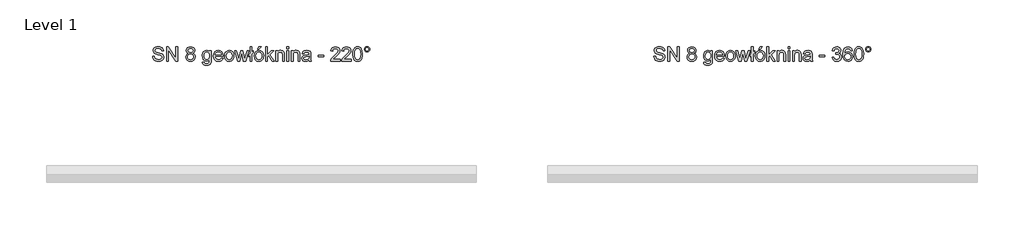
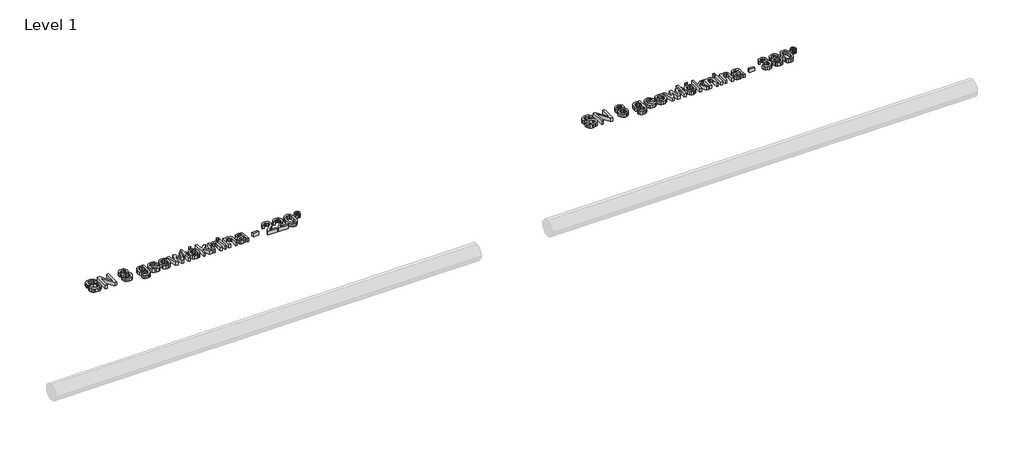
# One storey, part 7 of 10: 2 proxies.
"""IFC4 building model written with IfcOpenShell, lengths in millimetres."""

from ifc_helpers import new_model, si_unit, origin, origin_with_axes, place, context, project, spatial, polyline, outline, extrude, element, save

model = new_model("IFC4")

# Units and contexts
model_context = context("Model", 3, world=origin())
ifc_project = project(units=[si_unit("LENGTHUNIT", "METRE", prefix="MILLI")], contexts=[model_context])

# Site, building, storey
site = spatial("IfcSite", under=ifc_project)
building = spatial("IfcBuilding", under=site)
storey = spatial("IfcBuildingStorey", under=building, Name="Level 1", Elevation=0.0)

# Proxies
placement = place(None, origin())
element("IfcBuildingElementProxy", 1, Name="200mm Arial", ObjectType="200mm Arial", at=placement, inside=storey, context=model_context, shape_type="SweptSolid", body=[
    extrude(outline(polyline([(12447.9311838, 2231.0128426), (12473.0452613, 2231.0128426), (12481.1386652, 2205.8742396), (12489.2688573, 2196.983758), (12500.9061911, 2189.9817374), (12515.1309616, 2185.4383947), (12531.0234637, 2183.9239472), (12557.2657127, 2188.5102094), (12574.21281, 2201.1162991), (12579.7800908, 2217.9652945), (12575.6107616, 2233.6370675), (12569.2586658, 2239.8358791), (12558.541037, 2245.0414093), (12521.9735667, 2254.6308667), (12482.6101932, 2267.0162272), (12470.1083367, 2275.4652503), (12461.248512, 2285.7046325), (12455.9694054, 2297.5136446), (12454.2097032, 2310.6715573), (12456.3863383, 2325.3807057), (12462.9162437, 2339.0965728), (12473.6277411, 2350.7216438), (12488.3491523, 2359.1584042), (12506.0197508, 2364.2903581), (12525.5788102, 2366.0010093), (12546.7688131, 2364.2106503), (12565.3100657, 2358.8395732), (12580.5403803, 2349.9981425), (12591.7975694, 2337.796723), (12598.9222173, 2322.9956041), (12601.7549087, 2306.3550752), (12576.6408312, 2306.3550752), (12572.0300435, 2321.3401351), (12562.4160607, 2332.1558658), (12547.3942125, 2338.7041653), (12526.5598289, 2340.8869318), (12505.2349359, 2338.7286908), (12490.6054952, 2332.2539676), (12482.1442093, 2322.725824), (12479.3237807, 2311.4073212), (12481.3226062, 2301.7565502), (12487.3190827, 2293.9942401), (12501.4948023, 2287.0535332), (12528.3256625, 2279.9656734), (12572.7658075, 2267.3595837), (12587.0825484, 2258.2483729), (12597.0705446, 2247.0034466), (12602.9382624, 2233.7474321), (12604.8941684, 2218.6029566), (12602.6439568, 2203.121256), (12595.8933222, 2188.5592603), (12584.918176, 2176.026747), (12569.9944298, 2166.6334934), (12552.0479198, 2160.7657756), (12532.0044824, 2158.8098696), (12507.3993083, 2160.9190598), (12487.1474045, 2167.2466301), (12471.015779, 2177.8171061), (12458.7714399, 2192.6550132), (12450.9110279, 2210.7302819), (12447.9311838, 2231.0128426)])), origin_with_axes(), (0.0, 0.0, 1.0), 50.0),
    extrude(outline(polyline([(12642.5652847, 2161.9491293), (12642.5652847, 2362.8617496), (12669.4451958, 2362.8617496), (12774.4141918, 2203.6914731), (12774.4141918, 2362.8617496), (12799.5282693, 2362.8617496), (12799.5282693, 2161.9491293), (12772.6483582, 2161.9491293), (12667.6793622, 2321.1684569), (12667.6793622, 2161.9491293), (12642.5652847, 2161.9491293)])), origin_with_axes(), (0.0, 0.0, 1.0), 50.0),
    extrude(outline(polyline([(12949.133614, 2272.6080335), (12935.6875271, 2279.2299094), (12926.2513539, 2288.2062301), (12920.6779417, 2299.3530545), (12918.8201376, 2312.4864418), (12922.8668395, 2332.1190776), (12935.0069454, 2348.3426736), (12953.8792917, 2359.2319806), (12978.1227152, 2362.8617496), (13002.5132915, 2359.1461415), (13021.6308925, 2347.999317), (13033.9917276, 2331.5182037), (13038.1120059, 2311.7997287), (13036.2787273, 2299.0894058), (13030.7788915, 2288.1326537), (13021.5511848, 2279.2115153), (13008.5342935, 2272.6080335), (13023.9914687, 2264.6433883), (13035.2425263, 2252.914084), (13042.1035255, 2237.9842064), (13044.3905253, 2220.4178411), (13039.853314, 2196.4074096), (13026.2416802, 2176.5663073), (13005.2233555, 2163.2489791), (12978.4660717, 2158.8098696), (12951.708788, 2163.2673732), (12930.6904633, 2176.6398837), (12917.0788295, 2196.6710583), (12912.5416182, 2221.1045542), (12914.9205884, 2239.3515011), (12922.0574992, 2254.3610865), (12933.5844683, 2265.6182756), (12949.133614, 2272.6080335)]), holes=[polyline([(12943.9342151, 2311.7506778), (12946.1599012, 2300.7877943), (12952.8369594, 2292.0322028), (12963.769186, 2286.2932437), (12978.7603773, 2284.3802573), (12993.4020808, 2286.280981), (13004.1687605, 2291.9831519), (13010.7906364, 2300.4444378), (13012.9979284, 2310.6225063), (13010.71706, 2321.186851), (13003.8744549, 2329.9240483), (12992.9606224, 2335.7917662), (12978.4660717, 2337.7476721), (12963.8795506, 2335.8346857), (12952.9841122, 2330.0957266), (12946.1966894, 2321.6834916), (12943.9342151, 2311.7506778)]), polyline([(12937.6556958, 2221.987471), (12941.8495505, 2203.0783364), (12947.6559547, 2194.9665384), (12956.6874576, 2188.9271423), (12978.6622755, 2183.9239472), (12995.7565255, 2186.5543035), (13008.5833444, 2194.4453722), (13016.6031719, 2206.3954057), (13019.2764477, 2221.202656), (13016.5173328, 2236.2612924), (13008.2399879, 2248.4749746), (12995.1188634, 2256.5683785), (12977.8284096, 2259.2661798), (12960.9732829, 2256.6051667), (12948.2752227, 2248.6221274), (12940.3105775, 2236.6414371), (12937.6556958, 2221.987471)])]), origin_with_axes(), (0.0, 0.0, 1.0), 50.0),
    extrude(outline(polyline([(13144.8468354, 2149.3920906), (13169.960913, 2146.2528309), (13172.7322907, 2138.4046817), (13178.1033678, 2133.0090791), (13188.6615811, 2128.8152243), (13202.4816813, 2127.4172727), (13217.2214866, 2128.9991653), (13228.1843701, 2133.744843), (13235.7872646, 2141.3477376), (13240.4471032, 2151.5012807), (13242.1638859, 2180.7846875), (13224.4810247, 2166.6580189), (13202.9231397, 2161.9491293), (13177.0303786, 2167.4305711), (13157.7227053, 2183.8748963), (13145.7113581, 2207.9834297), (13141.7075757, 2236.4574961), (13143.5040662, 2256.7339254), (13148.8935374, 2275.3794112), (13157.6859171, 2291.1799429), (13169.6911328, 2302.9215099), (13184.4983831, 2310.2055734), (13201.6968664, 2312.6335946), (13224.1008799, 2307.1398901), (13242.1638859, 2290.6587767), (13242.1638859, 2309.4943349), (13267.2779634, 2309.4943349), (13267.2779634, 2182.1090627), (13265.5611808, 2152.6968972), (13260.4108329, 2133.3279101), (13251.5387454, 2120.4826971), (13238.6567442, 2110.6418537), (13222.0468721, 2104.3878598), (13201.991172, 2102.3031952), (13178.624534, 2105.2401198), (13160.2243028, 2114.0508936), (13148.4214222, 2128.760042), (13144.8468354, 2149.3920906)]), holes=[polyline([(13166.8216533, 2238.1742787), (13169.5010605, 2215.1387345), (13177.5392821, 2199.3014146), (13189.6242056, 2190.1227588), (13204.4437187, 2187.0632069), (13219.1528671, 2190.1043647), (13231.2991043, 2199.2278382), (13239.4476905, 2214.862823), (13242.1638859, 2237.4385148), (13239.3679827, 2259.2109975), (13230.9802732, 2274.8889019), (13218.6562264, 2284.3618632), (13204.0513112, 2287.519517), (13189.7100447, 2284.4109142), (13177.6864349, 2275.0851056), (13169.5378487, 2259.6401932), (13166.8216533, 2238.1742787)])]), origin_with_axes(), (0.0, 0.0, 1.0), 50.0),
    extrude(outline(polyline([(13408.250344, 2205.898765), (13432.8739122, 2202.7595053), (13424.0018247, 2184.20599), (13409.8444993, 2170.3368388), (13390.7207669, 2161.6916119), (13366.9494587, 2158.8098696), (13337.4821108, 2163.782408), (13314.8083172, 2178.7000229), (13300.3505548, 2202.5939584), (13295.5313007, 2234.4954588), (13300.3996057, 2267.4699483), (13315.0045209, 2292.1303047), (13337.3717462, 2307.5077721), (13365.5269816, 2312.6335946), (13392.8054315, 2307.5200348), (13414.6024398, 2292.1793556), (13428.8946553, 2267.5680502), (13433.6587271, 2234.6426116), (13433.5115743, 2227.8735829), (13320.6453782, 2227.8735829), (13324.9925171, 2209.0748129), (13335.0908779, 2195.2547126), (13349.6651362, 2186.7566385), (13367.439968, 2183.9239472), (13392.0635362, 2189.172397), (13401.2115351, 2195.9782139), (13408.250344, 2205.898765)]), holes=[polyline([(13320.6453782, 2252.9876604), (13408.5446496, 2252.9876604), (13405.1478725, 2266.2559377), (13398.4892084, 2275.7472932), (13383.847505, 2284.5764611), (13365.4288797, 2287.519517), (13348.5001766, 2285.1712036), (13334.5022667, 2278.1262634), (13324.7717879, 2267.1449859), (13320.6453782, 2252.9876604)])]), origin_with_axes(), (0.0, 0.0, 1.0), 50.0),
    extrude(outline(polyline([(13452.4942853, 2235.7217321), (13457.9266761, 2271.295921), (13464.7171646, 2285.119087), (13474.2238484, 2296.299634), (13494.3592563, 2308.5501044), (13518.4677897, 2312.6335946), (13544.8510602, 2307.6610563), (13565.9245671, 2292.7434414), (13579.738536, 2269.0579722), (13584.3431923, 2237.7818713), (13582.3075786, 2212.4102763), (13576.2007375, 2193.0964716), (13566.2004786, 2178.6325778), (13552.4846116, 2167.8107158), (13536.1935705, 2161.0600812), (13518.4677897, 2158.8098696), (13491.7656883, 2163.7640139), (13470.7167068, 2178.6264465), (13457.0498906, 2202.8085563), (13452.4942853, 2235.7217321)]), holes=[polyline([(13477.6083628, 2235.770783), (13480.5146306, 2213.0418071), (13489.2334339, 2196.848868), (13502.3545583, 2187.1551774), (13518.4677897, 2183.9239472), (13534.5074447, 2187.1735715), (13547.6040438, 2196.9224443), (13556.322847, 2213.3299813), (13559.2291148, 2236.555598), (13556.3044529, 2258.6223863), (13547.5304674, 2274.5945963), (13534.4154742, 2284.2882868), (13518.4677897, 2287.519517), (13502.3545583, 2284.3005496), (13489.2334339, 2274.6436472), (13480.5146306, 2258.4874962), (13477.6083628, 2235.770783)])]), origin_with_axes(), (0.0, 0.0, 1.0), 50.0),
    extrude(outline(polyline([(13637.072945, 2161.9491293), (13592.1913416, 2309.4943349), (13618.2864378, 2309.4943349), (13643.7438718, 2223.409948), (13651.3467664, 2192.6550132), (13657.5762348, 2222.2817766), (13677.83427, 2309.4943349), (13707.755339, 2309.4943349), (13727.9152723, 2222.5270312), (13733.4580277, 2195.696171), (13741.4042788, 2223.9985592), (13766.9107638, 2309.4943349), (13793.1039619, 2309.4943349), (13747.8790019, 2161.9491293), (13717.5164746, 2161.9491293), (13698.239458, 2248.4749746), (13692.6476517, 2275.4529876), (13667.7788288, 2161.9491293), (13637.072945, 2161.9491293)])), origin_with_axes(), (0.0, 0.0, 1.0), 50.0),
    extrude(outline(polyline([(13810.3698902, 2241.3625894), (13791.534332, 2226.303953), (13791.534332, 2254.5572903), (13810.3698902, 2269.6159266), (13810.3698902, 2362.8617496), (13835.4839677, 2362.8617496), (13835.4839677, 2289.726809), (13854.3195259, 2304.7854453), (13854.3195259, 2276.5321081), (13835.4839677, 2261.4734718), (13835.4839677, 2161.9491293), (13810.3698902, 2161.9491293), (13810.3698902, 2241.3625894)])), origin_with_axes(), (0.0, 0.0, 1.0), 50.0),
    extrude(outline(polyline([(13913.96546, 2325.1906333), (13932.8010182, 2362.8617496), (13964.1936151, 2362.8617496), (13932.8010182, 2325.1906333), (13913.96546, 2325.1906333)])), origin_with_axes(), (0.0, 0.0, 1.0), 50.0),
    extrude(outline(polyline([(13866.8765646, 2235.7217321), (13872.3089554, 2271.295921), (13879.0994439, 2285.119087), (13888.6061278, 2296.299634), (13908.7415357, 2308.5501044), (13932.8500691, 2312.6335946), (13959.2333395, 2307.6610563), (13980.3068465, 2292.7434414), (13994.1208154, 2269.0579722), (13998.7254717, 2237.7818713), (13996.689858, 2212.4102763), (13990.5830169, 2193.0964716), (13980.582758, 2178.6325778), (13966.8668909, 2167.8107158), (13950.5758499, 2161.0600812), (13932.8500691, 2158.8098696), (13906.1479676, 2163.7640139), (13885.0989861, 2178.6264465), (13871.43217, 2202.8085563), (13866.8765646, 2235.7217321)]), holes=[polyline([(13891.9906422, 2235.770783), (13894.8969099, 2213.0418071), (13903.6157132, 2196.848868), (13916.7368377, 2187.1551774), (13932.8500691, 2183.9239472), (13948.8897241, 2187.1735715), (13961.9863231, 2196.9224443), (13970.7051264, 2213.3299813), (13973.6113942, 2236.555598), (13970.6867323, 2258.6223863), (13961.9127467, 2274.5945963), (13948.7977536, 2284.2882868), (13932.8500691, 2287.519517), (13916.7368377, 2284.3005496), (13903.6157132, 2274.6436472), (13894.8969099, 2258.4874962), (13891.9906422, 2235.770783)])]), origin_with_axes(), (0.0, 0.0, 1.0), 50.0),
    extrude(outline(polyline([(14026.9788089, 2161.9491293), (14026.9788089, 2362.8617496), (14052.0928865, 2362.8617496), (14052.0928865, 2254.9006468), (14108.4033572, 2309.4943349), (14143.1314175, 2309.4943349), (14086.1342338, 2254.2139337), (14146.2706772, 2161.9491293), (14116.9382195, 2161.9491293), (14068.1325415, 2236.7518017), (14052.0928865, 2221.202656), (14052.0928865, 2161.9491293), (14026.9788089, 2161.9491293)])), origin_with_axes(), (0.0, 0.0, 1.0), 50.0),
    extrude(outline(polyline([(14168.2454951, 2161.9491293), (14168.2454951, 2309.4943349), (14193.3595726, 2309.4943349), (14193.3595726, 2288.8929431), (14202.0845073, 2299.2794781), (14212.5630128, 2306.6984317), (14224.7950891, 2311.1498039), (14238.7807363, 2312.6335946), (14262.4968622, 2307.8511286), (14278.68367, 2295.2940899), (14286.2129882, 2276.8264137), (14287.5373634, 2252.546202), (14287.5373634, 2161.9491293), (14262.4232858, 2161.9491293), (14262.4232858, 2249.1616877), (14259.5292808, 2271.3817602), (14249.3021614, 2283.1294586), (14232.0607585, 2287.519517), (14217.3516101, 2285.0547077), (14204.8129654, 2277.6602796), (14196.2229208, 2263.3741954), (14193.3595726, 2240.2344179), (14193.3595726, 2161.9491293), (14168.2454951, 2161.9491293)])), origin_with_axes(), (0.0, 0.0, 1.0), 50.0),
    extrude(outline(polyline([(14322.06922, 2337.7476721), (14322.06922, 2362.8617496), (14347.1832975, 2362.8617496), (14347.1832975, 2337.7476721), (14322.06922, 2337.7476721)])), origin_with_axes(), (0.0, 0.0, 1.0), 50.0),
    extrude(outline(polyline([(14322.06922, 2161.9491293), (14322.06922, 2309.4943349), (14347.1832975, 2309.4943349), (14347.1832975, 2161.9491293), (14322.06922, 2161.9491293)])), origin_with_axes(), (0.0, 0.0, 1.0), 50.0),
    extrude(outline(polyline([(14384.8544138, 2161.9491293), (14384.8544138, 2309.4943349), (14409.9684914, 2309.4943349), (14409.9684914, 2288.8929431), (14418.693426, 2299.2794781), (14429.1719315, 2306.6984317), (14441.4040079, 2311.1498039), (14455.3896551, 2312.6335946), (14479.105781, 2307.8511286), (14495.2925888, 2295.2940899), (14502.821907, 2276.8264137), (14504.1462821, 2252.546202), (14504.1462821, 2161.9491293), (14479.0322046, 2161.9491293), (14479.0322046, 2249.1616877), (14476.1381996, 2271.3817602), (14465.9110801, 2283.1294586), (14448.6696773, 2287.519517), (14433.9605288, 2285.0547077), (14421.4218842, 2277.6602796), (14412.8318396, 2263.3741954), (14409.9684914, 2240.2344179), (14409.9684914, 2161.9491293), (14384.8544138, 2161.9491293)])), origin_with_axes(), (0.0, 0.0, 1.0), 50.0),
    extrude(outline(polyline([(14632.8559295, 2180.7846875), (14608.5021414, 2163.7640139), (14581.5977049, 2158.8098696), (14560.610037, 2161.7897138), (14545.1283364, 2170.7292463), (14535.5817986, 2184.3040919), (14532.3996194, 2201.1898755), (14537.2066108, 2221.0555032), (14549.8372259, 2235.4764774), (14567.4219853, 2243.7170341), (14589.1515485, 2247.493956), (14632.7087767, 2256.1269201), (14632.8559295, 2261.7187264), (14631.1268841, 2272.9268646), (14625.939748, 2280.259979), (14614.3392024, 2285.7046325), (14598.1769201, 2287.519517), (14583.2163856, 2286.3116378), (14572.768537, 2282.6880002), (14565.643889, 2275.9864165), (14560.6529566, 2265.5446992), (14535.5388791, 2268.6839589), (14546.4036607, 2293.2094252), (14555.6620242, 2301.4622446), (14568.2803766, 2307.5813485), (14601.4142817, 2312.6335946), (14631.8503854, 2308.1699597), (14649.0427373, 2296.9618216), (14656.7437337, 2279.9166225), (14657.9700071, 2257.9418046), (14657.9700071, 2226.6963605), (14659.2453313, 2183.0655559), (14664.2485264, 2161.9491293), (14639.1344489, 2161.9491293), (14632.8559295, 2180.7846875)]), holes=[polyline([(14632.8559295, 2231.0128426), (14592.3398591, 2223.3118461), (14570.7329233, 2219.2406187), (14560.9472622, 2212.6187428), (14557.5136969, 2202.9557091), (14559.3837637, 2195.4877046), (14564.9939641, 2189.3686007), (14574.2216709, 2185.2851106), (14586.9442565, 2183.9239472), (14600.433263, 2185.426132), (14612.3526397, 2189.9326864), (14628.7356512, 2204.476288), (14632.7087767, 2223.9004573), (14632.8559295, 2231.0128426)])]), origin_with_axes(), (0.0, 0.0, 1.0), 50.0),
    extrude(outline(polyline([(14758.4263172, 2221.5950635), (14758.4263172, 2246.709141), (14836.9078095, 2246.709141), (14836.9078095, 2221.5950635), (14758.4263172, 2221.5950635)])), origin_with_axes(), (0.0, 0.0, 1.0), 50.0),
    extrude(outline(polyline([(15066.073767, 2187.0632069), (15066.073767, 2161.9491293), (14934.22486, 2161.9491293), (14936.9226613, 2179.2641086), (14952.1775013, 2205.9232905), (14983.6191492, 2235.0350191), (15026.9801737, 2276.8754646), (15035.1103658, 2291.2964388), (15037.8204298, 2305.3250056), (15035.2636499, 2317.9004385), (15027.5933103, 2328.3544185), (15015.8026924, 2335.3993587), (15000.8850775, 2337.7476721), (14985.2194359, 2335.454541), (14973.0486732, 2328.5751477), (14965.1943926, 2317.6490524), (14962.4781972, 2303.2158155), (14937.3641197, 2306.3550752), (14943.4525667, 2330.6475496), (14956.6166107, 2348.3917245), (14976.1695388, 2359.2442434), (15001.4246378, 2362.8617496), (15026.8636777, 2358.8395732), (15046.3798176, 2346.7730437), (15058.7958349, 2328.746826), (15062.9345074, 2306.8455845), (15058.4708725, 2283.0313567), (15043.6329653, 2258.4077885), (15007.6541062, 2223.9985592), (14978.7631069, 2199.8409748), (14967.4323414, 2187.0632069), (15066.073767, 2187.0632069)])), origin_with_axes(), (0.0, 0.0, 1.0), 50.0),
    extrude(outline(polyline([(15219.897492, 2187.0632069), (15219.897492, 2161.9491293), (15088.0485849, 2161.9491293), (15090.7463862, 2179.2641086), (15106.0012263, 2205.9232905), (15137.4428741, 2235.0350191), (15180.8038986, 2276.8754646), (15188.9340907, 2291.2964388), (15191.6441547, 2305.3250056), (15189.0873749, 2317.9004385), (15181.4170353, 2328.3544185), (15169.6264173, 2335.3993587), (15154.7088024, 2337.7476721), (15139.0431608, 2335.454541), (15126.8723981, 2328.5751477), (15119.0181175, 2317.6490524), (15116.3019221, 2303.2158155), (15091.1878446, 2306.3550752), (15097.2762916, 2330.6475496), (15110.4403357, 2348.3917245), (15129.9932637, 2359.2442434), (15155.2483627, 2362.8617496), (15180.6874026, 2358.8395732), (15200.2035425, 2346.7730437), (15212.6195598, 2328.746826), (15216.7582323, 2306.8455845), (15212.2945974, 2283.0313567), (15197.4566903, 2258.4077885), (15161.4778311, 2223.9985592), (15132.5868318, 2199.8409748), (15121.2560663, 2187.0632069), (15219.897492, 2187.0632069)])), origin_with_axes(), (0.0, 0.0, 1.0), 50.0),
    extrude(outline(polyline([(15245.0115695, 2260.7867587), (15246.8571108, 2292.9457765), (15252.3937349, 2318.5932829), (15261.5662593, 2338.1216855), (15274.3195018, 2351.9233917), (15290.7454329, 2360.1271601), (15310.936023, 2362.8617496), (15326.4115923, 2361.2430689), (15340.2684808, 2356.3870265), (15351.8567636, 2348.483695), (15360.526516, 2337.7231466), (15372.2987398, 2307.9982814), (15376.8604766, 2260.7867587), (15375.0333293, 2228.811682), (15369.5518876, 2203.2254892), (15360.4345455, 2183.6786925), (15347.6996971, 2169.821804), (15331.2369778, 2161.5628532), (15310.936023, 2158.8098696), (15284.8409268, 2163.5923356), (15265.02435, 2177.9397334), (15256.2687586, 2193.0688805), (15250.0147646, 2211.919767), (15245.0115695, 2260.7867587)]), holes=[polyline([(15270.125647, 2260.8358096), (15273.068703, 2221.3314147), (15281.8978709, 2198.4675487), (15295.0435208, 2187.5598476), (15310.936023, 2183.9239472), (15326.8285252, 2187.5721103), (15339.9741752, 2198.5165997), (15348.8033431, 2221.3927284), (15351.746399, 2260.8358096), (15348.9014449, 2299.4511564), (15340.3665826, 2322.492832), (15327.2454582, 2333.9339621), (15310.6417174, 2337.7476721), (15294.9208935, 2334.3876832), (15282.2902783, 2324.3077165), (15273.1668049, 2299.8313011), (15270.125647, 2260.8358096)])]), origin_with_axes(), (0.0, 0.0, 1.0), 50.0),
    extrude(outline(polyline([(15405.1138138, 2328.378944), (15407.8790601, 2342.8612318), (15416.1747991, 2355.0136004), (15428.3455618, 2363.2541571), (15442.7358792, 2366.0010093), (15457.2917434, 2363.2541571), (15469.4686375, 2355.0136004), (15477.7091942, 2342.8612318), (15480.4560464, 2328.378944), (15477.6908001, 2313.9150502), (15469.3950611, 2301.719762), (15457.199773, 2293.4240231), (15442.7358792, 2290.6587767), (15428.3455618, 2293.405629), (15416.1747991, 2301.6461856), (15407.8790601, 2313.8230797), (15405.1138138, 2328.378944)]), holes=[polyline([(15420.8101123, 2328.329893), (15422.4226617, 2319.8808699), (15427.2603099, 2312.7807474), (15434.3788265, 2307.9614932), (15442.833981, 2306.3550752), (15451.2155592, 2307.9614932), (15458.3095503, 2312.7807474), (15463.1471985, 2319.8808699), (15464.759748, 2328.329893), (15463.1471985, 2336.7789162), (15458.3095503, 2343.8790387), (15451.2155592, 2348.6982928), (15442.833981, 2350.3047109), (15434.3788265, 2348.6982928), (15427.2603099, 2343.8790387), (15422.4226617, 2336.7789162), (15420.8101123, 2328.329893)])]), origin_with_axes(), (0.0, 0.0, 1.0), 50.0),
])
element("IfcBuildingElementProxy", 2, Name="200mm Arial", ObjectType="200mm Arial", at=placement, inside=storey, context=model_context, shape_type="SweptSolid", body=[
    extrude(outline(polyline([(19447.9311838, 2231.0128426), (19473.0452613, 2231.0128426), (19481.1386652, 2205.8742396), (19489.2688573, 2196.983758), (19500.9061911, 2189.9817374), (19515.1309616, 2185.4383947), (19531.0234637, 2183.9239472), (19557.2657127, 2188.5102094), (19574.21281, 2201.1162991), (19579.7800908, 2217.9652945), (19575.6107616, 2233.6370675), (19569.2586658, 2239.8358791), (19558.541037, 2245.0414093), (19521.9735667, 2254.6308667), (19482.6101932, 2267.0162272), (19470.1083367, 2275.4652503), (19461.248512, 2285.7046325), (19455.9694054, 2297.5136446), (19454.2097032, 2310.6715573), (19456.3863383, 2325.3807057), (19462.9162437, 2339.0965728), (19473.6277411, 2350.7216438), (19488.3491523, 2359.1584042), (19506.0197508, 2364.2903581), (19525.5788102, 2366.0010093), (19546.7688131, 2364.2106503), (19565.3100657, 2358.8395732), (19580.5403803, 2349.9981425), (19591.7975694, 2337.796723), (19598.9222173, 2322.9956041), (19601.7549087, 2306.3550752), (19576.6408312, 2306.3550752), (19572.0300435, 2321.3401351), (19562.4160607, 2332.1558658), (19547.3942125, 2338.7041653), (19526.5598289, 2340.8869318), (19505.2349359, 2338.7286908), (19490.6054952, 2332.2539676), (19482.1442093, 2322.725824), (19479.3237807, 2311.4073212), (19481.3226062, 2301.7565502), (19487.3190827, 2293.9942401), (19501.4948023, 2287.0535332), (19528.3256625, 2279.9656734), (19572.7658075, 2267.3595837), (19587.0825484, 2258.2483729), (19597.0705446, 2247.0034466), (19602.9382624, 2233.7474321), (19604.8941684, 2218.6029566), (19602.6439568, 2203.121256), (19595.8933222, 2188.5592603), (19584.918176, 2176.026747), (19569.9944298, 2166.6334934), (19552.0479198, 2160.7657756), (19532.0044824, 2158.8098696), (19507.3993083, 2160.9190598), (19487.1474045, 2167.2466301), (19471.015779, 2177.8171061), (19458.7714399, 2192.6550132), (19450.9110279, 2210.7302819), (19447.9311838, 2231.0128426)])), origin_with_axes(), (0.0, 0.0, 1.0), 50.0),
    extrude(outline(polyline([(19642.5652847, 2161.9491293), (19642.5652847, 2362.8617496), (19669.4451958, 2362.8617496), (19774.4141918, 2203.6914731), (19774.4141918, 2362.8617496), (19799.5282693, 2362.8617496), (19799.5282693, 2161.9491293), (19772.6483582, 2161.9491293), (19667.6793622, 2321.1684569), (19667.6793622, 2161.9491293), (19642.5652847, 2161.9491293)])), origin_with_axes(), (0.0, 0.0, 1.0), 50.0),
    extrude(outline(polyline([(19949.133614, 2272.6080335), (19935.6875271, 2279.2299094), (19926.2513539, 2288.2062301), (19920.6779417, 2299.3530545), (19918.8201376, 2312.4864418), (19922.8668395, 2332.1190776), (19935.0069454, 2348.3426736), (19953.8792917, 2359.2319806), (19978.1227152, 2362.8617496), (20002.5132915, 2359.1461415), (20021.6308925, 2347.999317), (20033.9917276, 2331.5182037), (20038.1120059, 2311.7997287), (20036.2787273, 2299.0894058), (20030.7788915, 2288.1326537), (20021.5511848, 2279.2115153), (20008.5342935, 2272.6080335), (20023.9914687, 2264.6433883), (20035.2425263, 2252.914084), (20042.1035255, 2237.9842064), (20044.3905253, 2220.4178411), (20039.853314, 2196.4074096), (20026.2416802, 2176.5663073), (20005.2233555, 2163.2489791), (19978.4660717, 2158.8098696), (19951.708788, 2163.2673732), (19930.6904633, 2176.6398837), (19917.0788295, 2196.6710583), (19912.5416182, 2221.1045542), (19914.9205884, 2239.3515011), (19922.0574992, 2254.3610865), (19933.5844683, 2265.6182756), (19949.133614, 2272.6080335)]), holes=[polyline([(19943.9342151, 2311.7506778), (19946.1599012, 2300.7877943), (19952.8369594, 2292.0322028), (19963.769186, 2286.2932437), (19978.7603773, 2284.3802573), (19993.4020808, 2286.280981), (20004.1687605, 2291.9831519), (20010.7906364, 2300.4444378), (20012.9979284, 2310.6225063), (20010.71706, 2321.186851), (20003.8744549, 2329.9240483), (19992.9606224, 2335.7917662), (19978.4660717, 2337.7476721), (19963.8795506, 2335.8346857), (19952.9841122, 2330.0957266), (19946.1966894, 2321.6834916), (19943.9342151, 2311.7506778)]), polyline([(19937.6556958, 2221.987471), (19941.8495505, 2203.0783364), (19947.6559547, 2194.9665384), (19956.6874576, 2188.9271423), (19978.6622755, 2183.9239472), (19995.7565255, 2186.5543035), (20008.5833444, 2194.4453722), (20016.6031719, 2206.3954057), (20019.2764477, 2221.202656), (20016.5173328, 2236.2612924), (20008.2399879, 2248.4749746), (19995.1188634, 2256.5683785), (19977.8284096, 2259.2661798), (19960.9732829, 2256.6051667), (19948.2752227, 2248.6221274), (19940.3105775, 2236.6414371), (19937.6556958, 2221.987471)])]), origin_with_axes(), (0.0, 0.0, 1.0), 50.0),
    extrude(outline(polyline([(20144.8468354, 2149.3920906), (20169.960913, 2146.2528309), (20172.7322907, 2138.4046817), (20178.1033678, 2133.0090791), (20188.6615811, 2128.8152243), (20202.4816813, 2127.4172727), (20217.2214866, 2128.9991653), (20228.1843701, 2133.744843), (20235.7872646, 2141.3477376), (20240.4471032, 2151.5012807), (20242.1638859, 2180.7846875), (20224.4810247, 2166.6580189), (20202.9231397, 2161.9491293), (20177.0303786, 2167.4305711), (20157.7227053, 2183.8748963), (20145.7113581, 2207.9834297), (20141.7075757, 2236.4574961), (20143.5040662, 2256.7339254), (20148.8935374, 2275.3794112), (20157.6859171, 2291.1799429), (20169.6911328, 2302.9215099), (20184.4983831, 2310.2055734), (20201.6968664, 2312.6335946), (20224.1008799, 2307.1398901), (20242.1638859, 2290.6587767), (20242.1638859, 2309.4943349), (20267.2779634, 2309.4943349), (20267.2779634, 2182.1090627), (20265.5611808, 2152.6968972), (20260.4108329, 2133.3279101), (20251.5387454, 2120.4826971), (20238.6567442, 2110.6418537), (20222.0468721, 2104.3878598), (20201.991172, 2102.3031952), (20178.624534, 2105.2401198), (20160.2243028, 2114.0508936), (20148.4214222, 2128.760042), (20144.8468354, 2149.3920906)]), holes=[polyline([(20166.8216533, 2238.1742787), (20169.5010605, 2215.1387345), (20177.5392821, 2199.3014146), (20189.6242056, 2190.1227588), (20204.4437187, 2187.0632069), (20219.1528671, 2190.1043647), (20231.2991043, 2199.2278382), (20239.4476905, 2214.862823), (20242.1638859, 2237.4385148), (20239.3679827, 2259.2109975), (20230.9802732, 2274.8889019), (20218.6562264, 2284.3618632), (20204.0513112, 2287.519517), (20189.7100447, 2284.4109142), (20177.6864349, 2275.0851056), (20169.5378487, 2259.6401932), (20166.8216533, 2238.1742787)])]), origin_with_axes(), (0.0, 0.0, 1.0), 50.0),
    extrude(outline(polyline([(20408.250344, 2205.898765), (20432.8739122, 2202.7595053), (20424.0018247, 2184.20599), (20409.8444993, 2170.3368388), (20390.7207669, 2161.6916119), (20366.9494587, 2158.8098696), (20337.4821108, 2163.782408), (20314.8083172, 2178.7000229), (20300.3505548, 2202.5939584), (20295.5313007, 2234.4954588), (20300.3996057, 2267.4699483), (20315.0045209, 2292.1303047), (20337.3717462, 2307.5077721), (20365.5269816, 2312.6335946), (20392.8054315, 2307.5200348), (20414.6024398, 2292.1793556), (20428.8946553, 2267.5680502), (20433.6587271, 2234.6426116), (20433.5115743, 2227.8735829), (20320.6453782, 2227.8735829), (20324.9925171, 2209.0748129), (20335.0908779, 2195.2547126), (20349.6651362, 2186.7566385), (20367.439968, 2183.9239472), (20392.0635362, 2189.172397), (20401.2115351, 2195.9782139), (20408.250344, 2205.898765)]), holes=[polyline([(20320.6453782, 2252.9876604), (20408.5446496, 2252.9876604), (20405.1478725, 2266.2559377), (20398.4892084, 2275.7472932), (20383.847505, 2284.5764611), (20365.4288797, 2287.519517), (20348.5001766, 2285.1712036), (20334.5022667, 2278.1262634), (20324.7717879, 2267.1449859), (20320.6453782, 2252.9876604)])]), origin_with_axes(), (0.0, 0.0, 1.0), 50.0),
    extrude(outline(polyline([(20452.4942853, 2235.7217321), (20457.9266761, 2271.295921), (20464.7171646, 2285.119087), (20474.2238484, 2296.299634), (20494.3592563, 2308.5501044), (20518.4677897, 2312.6335946), (20544.8510602, 2307.6610563), (20565.9245671, 2292.7434414), (20579.738536, 2269.0579722), (20584.3431923, 2237.7818713), (20582.3075786, 2212.4102763), (20576.2007375, 2193.0964716), (20566.2004786, 2178.6325778), (20552.4846116, 2167.8107158), (20536.1935705, 2161.0600812), (20518.4677897, 2158.8098696), (20491.7656883, 2163.7640139), (20470.7167068, 2178.6264465), (20457.0498906, 2202.8085563), (20452.4942853, 2235.7217321)]), holes=[polyline([(20477.6083628, 2235.770783), (20480.5146306, 2213.0418071), (20489.2334339, 2196.848868), (20502.3545583, 2187.1551774), (20518.4677897, 2183.9239472), (20534.5074447, 2187.1735715), (20547.6040438, 2196.9224443), (20556.322847, 2213.3299813), (20559.2291148, 2236.555598), (20556.3044529, 2258.6223863), (20547.5304674, 2274.5945963), (20534.4154742, 2284.2882868), (20518.4677897, 2287.519517), (20502.3545583, 2284.3005496), (20489.2334339, 2274.6436472), (20480.5146306, 2258.4874962), (20477.6083628, 2235.770783)])]), origin_with_axes(), (0.0, 0.0, 1.0), 50.0),
    extrude(outline(polyline([(20637.072945, 2161.9491293), (20592.1913416, 2309.4943349), (20618.2864378, 2309.4943349), (20643.7438718, 2223.409948), (20651.3467664, 2192.6550132), (20657.5762348, 2222.2817766), (20677.83427, 2309.4943349), (20707.755339, 2309.4943349), (20727.9152723, 2222.5270312), (20733.4580277, 2195.696171), (20741.4042788, 2223.9985592), (20766.9107638, 2309.4943349), (20793.1039619, 2309.4943349), (20747.8790019, 2161.9491293), (20717.5164746, 2161.9491293), (20698.239458, 2248.4749746), (20692.6476517, 2275.4529876), (20667.7788288, 2161.9491293), (20637.072945, 2161.9491293)])), origin_with_axes(), (0.0, 0.0, 1.0), 50.0),
    extrude(outline(polyline([(20810.3698902, 2241.3625894), (20791.534332, 2226.303953), (20791.534332, 2254.5572903), (20810.3698902, 2269.6159266), (20810.3698902, 2362.8617496), (20835.4839677, 2362.8617496), (20835.4839677, 2289.726809), (20854.3195259, 2304.7854453), (20854.3195259, 2276.5321081), (20835.4839677, 2261.4734718), (20835.4839677, 2161.9491293), (20810.3698902, 2161.9491293), (20810.3698902, 2241.3625894)])), origin_with_axes(), (0.0, 0.0, 1.0), 50.0),
    extrude(outline(polyline([(20913.96546, 2325.1906333), (20932.8010182, 2362.8617496), (20964.1936151, 2362.8617496), (20932.8010182, 2325.1906333), (20913.96546, 2325.1906333)])), origin_with_axes(), (0.0, 0.0, 1.0), 50.0),
    extrude(outline(polyline([(20866.8765646, 2235.7217321), (20872.3089554, 2271.295921), (20879.0994439, 2285.119087), (20888.6061278, 2296.299634), (20908.7415357, 2308.5501044), (20932.8500691, 2312.6335946), (20959.2333395, 2307.6610563), (20980.3068465, 2292.7434414), (20994.1208154, 2269.0579722), (20998.7254717, 2237.7818713), (20996.689858, 2212.4102763), (20990.5830169, 2193.0964716), (20980.582758, 2178.6325778), (20966.8668909, 2167.8107158), (20950.5758499, 2161.0600812), (20932.8500691, 2158.8098696), (20906.1479676, 2163.7640139), (20885.0989861, 2178.6264465), (20871.43217, 2202.8085563), (20866.8765646, 2235.7217321)]), holes=[polyline([(20891.9906422, 2235.770783), (20894.8969099, 2213.0418071), (20903.6157132, 2196.848868), (20916.7368377, 2187.1551774), (20932.8500691, 2183.9239472), (20948.8897241, 2187.1735715), (20961.9863231, 2196.9224443), (20970.7051264, 2213.3299813), (20973.6113942, 2236.555598), (20970.6867323, 2258.6223863), (20961.9127467, 2274.5945963), (20948.7977536, 2284.2882868), (20932.8500691, 2287.519517), (20916.7368377, 2284.3005496), (20903.6157132, 2274.6436472), (20894.8969099, 2258.4874962), (20891.9906422, 2235.770783)])]), origin_with_axes(), (0.0, 0.0, 1.0), 50.0),
    extrude(outline(polyline([(21026.9788089, 2161.9491293), (21026.9788089, 2362.8617496), (21052.0928865, 2362.8617496), (21052.0928865, 2254.9006468), (21108.4033572, 2309.4943349), (21143.1314175, 2309.4943349), (21086.1342338, 2254.2139337), (21146.2706772, 2161.9491293), (21116.9382195, 2161.9491293), (21068.1325415, 2236.7518017), (21052.0928865, 2221.202656), (21052.0928865, 2161.9491293), (21026.9788089, 2161.9491293)])), origin_with_axes(), (0.0, 0.0, 1.0), 50.0),
    extrude(outline(polyline([(21168.2454951, 2161.9491293), (21168.2454951, 2309.4943349), (21193.3595726, 2309.4943349), (21193.3595726, 2288.8929431), (21202.0845073, 2299.2794781), (21212.5630128, 2306.6984317), (21224.7950891, 2311.1498039), (21238.7807363, 2312.6335946), (21262.4968622, 2307.8511286), (21278.68367, 2295.2940899), (21286.2129882, 2276.8264137), (21287.5373634, 2252.546202), (21287.5373634, 2161.9491293), (21262.4232858, 2161.9491293), (21262.4232858, 2249.1616877), (21259.5292808, 2271.3817602), (21249.3021614, 2283.1294586), (21232.0607585, 2287.519517), (21217.3516101, 2285.0547077), (21204.8129654, 2277.6602796), (21196.2229208, 2263.3741954), (21193.3595726, 2240.2344179), (21193.3595726, 2161.9491293), (21168.2454951, 2161.9491293)])), origin_with_axes(), (0.0, 0.0, 1.0), 50.0),
    extrude(outline(polyline([(21322.06922, 2337.7476721), (21322.06922, 2362.8617496), (21347.1832975, 2362.8617496), (21347.1832975, 2337.7476721), (21322.06922, 2337.7476721)])), origin_with_axes(), (0.0, 0.0, 1.0), 50.0),
    extrude(outline(polyline([(21322.06922, 2161.9491293), (21322.06922, 2309.4943349), (21347.1832975, 2309.4943349), (21347.1832975, 2161.9491293), (21322.06922, 2161.9491293)])), origin_with_axes(), (0.0, 0.0, 1.0), 50.0),
    extrude(outline(polyline([(21384.8544138, 2161.9491293), (21384.8544138, 2309.4943349), (21409.9684914, 2309.4943349), (21409.9684914, 2288.8929431), (21418.693426, 2299.2794781), (21429.1719315, 2306.6984317), (21441.4040079, 2311.1498039), (21455.3896551, 2312.6335946), (21479.105781, 2307.8511286), (21495.2925888, 2295.2940899), (21502.821907, 2276.8264137), (21504.1462821, 2252.546202), (21504.1462821, 2161.9491293), (21479.0322046, 2161.9491293), (21479.0322046, 2249.1616877), (21476.1381996, 2271.3817602), (21465.9110801, 2283.1294586), (21448.6696773, 2287.519517), (21433.9605288, 2285.0547077), (21421.4218842, 2277.6602796), (21412.8318396, 2263.3741954), (21409.9684914, 2240.2344179), (21409.9684914, 2161.9491293), (21384.8544138, 2161.9491293)])), origin_with_axes(), (0.0, 0.0, 1.0), 50.0),
    extrude(outline(polyline([(21632.8559295, 2180.7846875), (21608.5021414, 2163.7640139), (21581.5977049, 2158.8098696), (21560.610037, 2161.7897138), (21545.1283364, 2170.7292463), (21535.5817986, 2184.3040919), (21532.3996194, 2201.1898755), (21537.2066108, 2221.0555032), (21549.8372259, 2235.4764774), (21567.4219853, 2243.7170341), (21589.1515485, 2247.493956), (21632.7087767, 2256.1269201), (21632.8559295, 2261.7187264), (21631.1268841, 2272.9268646), (21625.939748, 2280.259979), (21614.3392024, 2285.7046325), (21598.1769201, 2287.519517), (21583.2163856, 2286.3116378), (21572.768537, 2282.6880002), (21565.643889, 2275.9864165), (21560.6529566, 2265.5446992), (21535.5388791, 2268.6839589), (21546.4036607, 2293.2094252), (21555.6620242, 2301.4622446), (21568.2803766, 2307.5813485), (21601.4142817, 2312.6335946), (21631.8503854, 2308.1699597), (21649.0427373, 2296.9618216), (21656.7437337, 2279.9166225), (21657.9700071, 2257.9418046), (21657.9700071, 2226.6963605), (21659.2453313, 2183.0655559), (21664.2485264, 2161.9491293), (21639.1344489, 2161.9491293), (21632.8559295, 2180.7846875)]), holes=[polyline([(21632.8559295, 2231.0128426), (21592.3398591, 2223.3118461), (21570.7329233, 2219.2406187), (21560.9472622, 2212.6187428), (21557.5136969, 2202.9557091), (21559.3837637, 2195.4877046), (21564.9939641, 2189.3686007), (21574.2216709, 2185.2851106), (21586.9442565, 2183.9239472), (21600.433263, 2185.426132), (21612.3526397, 2189.9326864), (21628.7356512, 2204.476288), (21632.7087767, 2223.9004573), (21632.8559295, 2231.0128426)])]), origin_with_axes(), (0.0, 0.0, 1.0), 50.0),
    extrude(outline(polyline([(21758.4263172, 2221.5950635), (21758.4263172, 2246.709141), (21836.9078095, 2246.709141), (21836.9078095, 2221.5950635), (21758.4263172, 2221.5950635)])), origin_with_axes(), (0.0, 0.0, 1.0), 50.0),
    extrude(outline(polyline([(21937.3641197, 2215.3165441), (21962.4781972, 2218.4558038), (21968.1006604, 2202.6736662), (21976.3350857, 2192.0173511), (21987.5861434, 2185.9472982), (22002.2585036, 2183.9239472), (22019.475381, 2186.7075876), (22032.7681837, 2195.0585089), (22041.2662578, 2207.5174458), (22044.0989492, 2222.6251331), (22041.2907833, 2236.9663995), (22032.8662856, 2248.5976019), (22020.1130431, 2256.3047297), (22004.3186428, 2258.8737723), (21986.709358, 2256.1269201), (21989.5052611, 2281.2409976), (21993.5274376, 2280.946692), (22008.5738112, 2282.7493138), (22022.0260295, 2288.1571792), (22031.517385, 2297.3051781), (22034.6811701, 2310.3282007), (22032.388039, 2321.1745882), (22025.5086457, 2329.9730993), (22015.0117461, 2335.8040289), (22001.8660962, 2337.7476721), (21988.6959207, 2335.7856348), (21977.929241, 2329.8995229), (21970.068829, 2320.0893363), (21965.6174569, 2306.3550752), (21940.5033794, 2309.4943349), (21947.8978075, 2332.0455012), (21961.0557202, 2348.8822338), (21979.0574125, 2359.3668707), (22000.9831794, 2362.8617496), (22016.7714483, 2361.1388356), (22031.2721303, 2355.9700936), (22043.4980753, 2347.815376), (22052.4621332, 2337.1345354), (22057.9619691, 2324.8288827), (22059.7952477, 2311.7997287), (22058.0539396, 2299.6596229), (22052.8300152, 2288.6476885), (22044.1970511, 2279.2666976), (22032.2286235, 2272.0194223), (22047.9494474, 2265.6673265), (22059.5990439, 2254.8515959), (22066.809531, 2240.1608415), (22069.2130267, 2222.1836747), (22064.4060353, 2197.7072593), (22049.9850611, 2177.2530203), (22028.2187097, 2163.4206573), (22001.3755868, 2158.8098696), (21977.0953751, 2162.746207), (21957.3278493, 2174.555219), (21943.5813254, 2192.618225), (21937.3641197, 2215.3165441)])), origin_with_axes(), (0.0, 0.0, 1.0), 50.0),
    extrude(outline(polyline([(22219.897492, 2309.4943349), (22194.7834144, 2306.3550752), (22185.2675335, 2327.2998234), (22173.8754544, 2335.1357099), (22160.104405, 2337.7476721), (22137.4428741, 2331.6653565), (22128.0067009, 2322.057505), (22120.2995731, 2308.8321473), (22115.0940429, 2290.1253478), (22113.1626624, 2264.0731712), (22123.2364977, 2275.8270009), (22135.3091585, 2284.1104772), (22148.7061945, 2289.0217018), (22162.7531554, 2290.6587767), (22185.9542465, 2286.1828791), (22205.4274668, 2272.7551863), (22218.6344304, 2252.2396337), (22223.0367517, 2226.5001568), (22220.9643497, 2208.5168586), (22214.747144, 2191.8456728), (22204.9001693, 2177.7067415), (22191.9384603, 2167.3202065), (22176.4506283, 2160.9374539), (22159.0252845, 2158.8098696), (22130.532824, 2164.4507269), (22107.8406362, 2181.3732987), (22099.1816138, 2194.4821604), (22092.9965977, 2211.2453167), (22088.0485849, 2255.7345126), (22093.5422894, 2305.7542013), (22100.4094199, 2324.8319484), (22110.0234027, 2339.9549641), (22120.4436602, 2349.9766828), (22132.5255181, 2357.1350532), (22161.6740349, 2362.8617496), (22183.7101664, 2359.3178198), (22201.3562394, 2348.6860301), (22213.7170744, 2331.8002465), (22219.897492, 2309.4943349)]), holes=[polyline([(22113.1626624, 2226.8925642), (22118.975198, 2205.1384756), (22134.4262417, 2189.3440752), (22157.0632472, 2183.9239472), (22173.6363311, 2186.7321131), (22186.6654851, 2195.1566108), (22195.1083769, 2208.4003626), (22197.9226741, 2225.6662909), (22195.1451651, 2242.2393748), (22186.8126379, 2254.8761213), (22173.5627547, 2262.8775547), (22156.0331776, 2265.5446992), (22139.4846192, 2262.8775547), (22125.6461248, 2254.8761213), (22116.283528, 2242.5459431), (22113.1626624, 2226.8925642)])]), origin_with_axes(), (0.0, 0.0, 1.0), 50.0),
    extrude(outline(polyline([(22245.0115695, 2260.7867587), (22246.8571108, 2292.9457765), (22252.3937349, 2318.5932829), (22261.5662593, 2338.1216855), (22274.3195018, 2351.9233917), (22290.7454329, 2360.1271601), (22310.936023, 2362.8617496), (22326.4115923, 2361.2430689), (22340.2684808, 2356.3870265), (22351.8567636, 2348.483695), (22360.526516, 2337.7231466), (22372.2987398, 2307.9982814), (22376.8604766, 2260.7867587), (22375.0333293, 2228.811682), (22369.5518876, 2203.2254892), (22360.4345455, 2183.6786925), (22347.6996971, 2169.821804), (22331.2369778, 2161.5628532), (22310.936023, 2158.8098696), (22284.8409268, 2163.5923356), (22265.02435, 2177.9397334), (22256.2687586, 2193.0688805), (22250.0147646, 2211.919767), (22245.0115695, 2260.7867587)]), holes=[polyline([(22270.125647, 2260.8358096), (22273.068703, 2221.3314147), (22281.8978709, 2198.4675487), (22295.0435208, 2187.5598476), (22310.936023, 2183.9239472), (22326.8285252, 2187.5721103), (22339.9741752, 2198.5165997), (22348.8033431, 2221.3927284), (22351.746399, 2260.8358096), (22348.9014449, 2299.4511564), (22340.3665826, 2322.492832), (22327.2454582, 2333.9339621), (22310.6417174, 2337.7476721), (22294.9208935, 2334.3876832), (22282.2902783, 2324.3077165), (22273.1668049, 2299.8313011), (22270.125647, 2260.8358096)])]), origin_with_axes(), (0.0, 0.0, 1.0), 50.0),
    extrude(outline(polyline([(22405.1138138, 2328.378944), (22407.8790601, 2342.8612318), (22416.1747991, 2355.0136004), (22428.3455618, 2363.2541571), (22442.7358792, 2366.0010093), (22457.2917434, 2363.2541571), (22469.4686375, 2355.0136004), (22477.7091942, 2342.8612318), (22480.4560464, 2328.378944), (22477.6908001, 2313.9150502), (22469.3950611, 2301.719762), (22457.199773, 2293.4240231), (22442.7358792, 2290.6587767), (22428.3455618, 2293.405629), (22416.1747991, 2301.6461856), (22407.8790601, 2313.8230797), (22405.1138138, 2328.378944)]), holes=[polyline([(22420.8101123, 2328.329893), (22422.4226617, 2319.8808699), (22427.2603099, 2312.7807474), (22434.3788265, 2307.9614932), (22442.833981, 2306.3550752), (22451.2155592, 2307.9614932), (22458.3095503, 2312.7807474), (22463.1471985, 2319.8808699), (22464.759748, 2328.329893), (22463.1471985, 2336.7789162), (22458.3095503, 2343.8790387), (22451.2155592, 2348.6982928), (22442.833981, 2350.3047109), (22434.3788265, 2348.6982928), (22427.2603099, 2343.8790387), (22422.4226617, 2336.7789162), (22420.8101123, 2328.329893)])]), origin_with_axes(), (0.0, 0.0, 1.0), 50.0),
])

save(model, "model.ifc")
